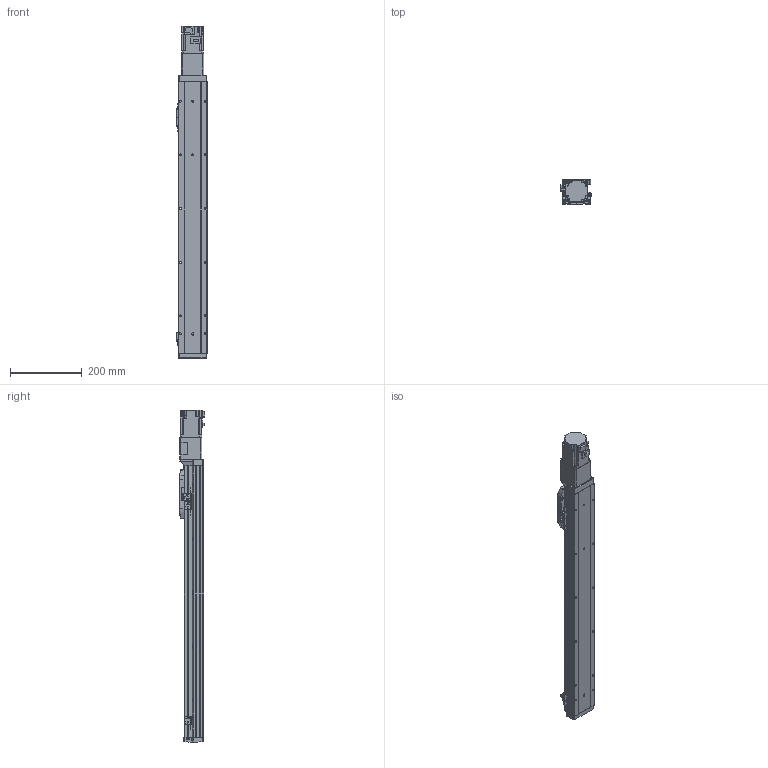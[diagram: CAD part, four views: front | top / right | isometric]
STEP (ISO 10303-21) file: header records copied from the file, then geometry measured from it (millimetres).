
FILE_DESCRIPTION (( 'STEP AP214' ), '1' );
FILE_NAME ('GSH8-600-BC-M20-1.step', '2025-01-07T06:04:03', ( '' ), ( '' ), 'SwSTEP 2.0', 'SolidWorks 2012', '' );
FILE_SCHEMA (( 'AUTOMOTIVE_DESIGN' ));
Length unit declared in the file: millimetre
Products named in the file (4): HG-KR23_200W_Motor; GSH8-GY-004; GSH8-600-BC-M20-1; GSH8-BC-011-600-M20
Assembly tree (3 placements, depth 2):
  GSH8-600-BC-M20-1
    GSH8-BC-011-600-M20
    GSH8-GY-004
    HG-KR23_200W_Motor
Bounding box: 84 x 71.3 x 927.6 mm (x, y, z)
Volume: 1910545.6 mm3; surface area: 504636.2 mm2
Topology: 3 solids, 7 shells, 1135 faces, 3008 edges, 1938 vertices
Faces by surface type: plane 652, cylinder 391, torus 38, cone 26, bspline 24, sphere 4
Entity records: 45094 total; most frequent: CARTESIAN_POINT 10633, DIRECTION 6092, ORIENTED_EDGE 6000, EDGE_CURVE 3000, AXIS2_PLACEMENT_3D 2045, LINE 2002, VECTOR 2002, VERTEX_POINT 1934
